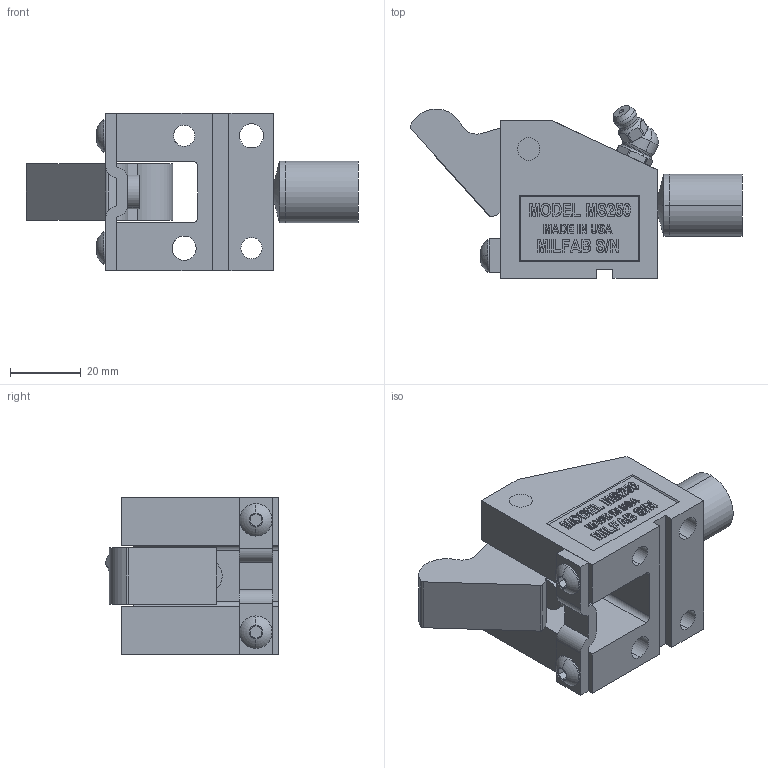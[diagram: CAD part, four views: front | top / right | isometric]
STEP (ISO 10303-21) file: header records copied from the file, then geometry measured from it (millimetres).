
FILE_DESCRIPTION (( 'STEP AP214' ), '1' );
FILE_NAME ('MS25045-O.STEP', '2014-01-07T17:49:30', ( 'user' ), ( '' ), 'SwSTEP 2.0', 'SolidWorks 2009', '' );
FILE_SCHEMA (( 'AUTOMOTIVE_DESIGN' ));
Length unit declared in the file: inch
Products named in the file (1): MS25045-O
Bounding box: 93.85 x 48.83 x 44.45 mm (x, y, z)
Surface area: 23299.8 mm2 (no closed solid volume)
Topology: 0 solids, 12 shells, 525 faces, 1448 edges, 968 vertices
Faces by surface type: plane 324, bspline 99, cylinder 65, torus 20, cone 17
Entity records: 29262 total; most frequent: CARTESIAN_POINT 9763, ORIENTED_EDGE 2787, DIRECTION 2194, EDGE_CURVE 1448, VERTEX_POINT 968, VECTOR 962, LINE 962, AXIS2_PLACEMENT_3D 616
